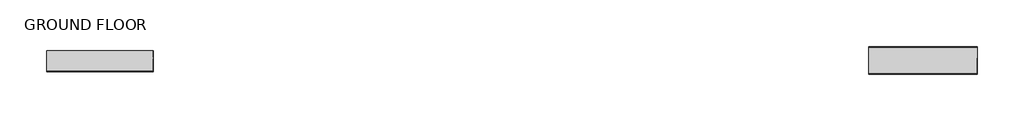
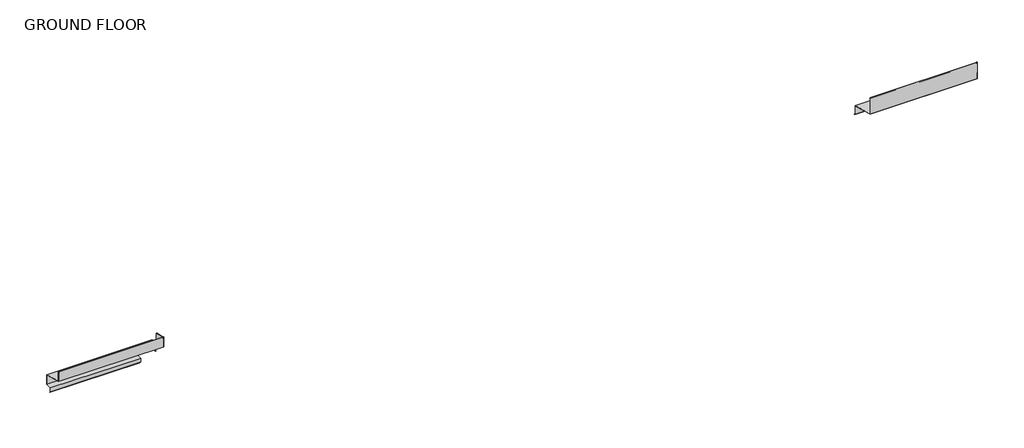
# One storey: 3 proxies.
"""IFC4 building model written with IfcOpenShell, lengths in millimetres."""

from ifc_helpers import new_model, si_unit, origin, place, context, project, spatial, transform, mapped, element, save
from components import compressible_foam_seal1_compressible_foam_seal_3d3ce578, roof_b_apron_flashing_13_roof_b_apron_flashing_3fdaa6fa, roof_b_apron_flashing_14_roof_b_apron_flashing_8da3c9e0

model = new_model("IFC4")

# Units and contexts
model_context = context("Model", 3, world=origin())
ifc_project = project(units=[si_unit("LENGTHUNIT", "METRE", prefix="MILLI")], contexts=[model_context])

# Site, building, storey
site = spatial("IfcSite", under=ifc_project)
building = spatial("IfcBuilding", under=site)
storey = spatial("IfcBuildingStorey", under=building, Name="GROUND FLOOR", Elevation=0.0)

# Proxies
placement = place(None, origin())
compressible_foam_seal1_compressible_foam_seal_shape = compressible_foam_seal1_compressible_foam_seal_3d3ce578(model_context)
element("IfcBuildingElementProxy", 1, Name="Compressible foam seal1 : Compressible foam seal", ObjectType="Compressible foam seal1 : Compressible foam seal", at=placement, inside=storey, context=model_context, shape_type="MappedRepresentation", body=[
    mapped(compressible_foam_seal1_compressible_foam_seal_shape, transform((0.0, 0.0, 0.0), x_axis=(1.0, 0.0, 0.0), y_axis=(0.0, 1.0, 0.0), z_axis=(0.0, 0.0, 1.0))),
])
roof_b_apron_flashing_13_roof_b_apron_flashing_shape = roof_b_apron_flashing_13_roof_b_apron_flashing_3fdaa6fa(model_context)
element("IfcBuildingElementProxy", 2, Name="Roof B - Apron Flashing 13 : Roof B Apron Flashing", ObjectType="Roof B - Apron Flashing 13 : Roof B Apron Flashing", at=placement, inside=storey, context=model_context, shape_type="MappedRepresentation", body=[
    mapped(roof_b_apron_flashing_13_roof_b_apron_flashing_shape, transform((0.0, 0.0, 650.0), x_axis=(1.0, 0.0, 0.0), y_axis=(0.0, 1.0, 0.0), z_axis=(0.0, 0.0, 1.0))),
])
roof_b_apron_flashing_14_roof_b_apron_flashing_shape = roof_b_apron_flashing_14_roof_b_apron_flashing_8da3c9e0(model_context)
element("IfcBuildingElementProxy", 3, Name="Roof B - Apron Flashing 14 : Roof B Apron Flashing", ObjectType="Roof B - Apron Flashing 14 : Roof B Apron Flashing", at=placement, inside=storey, context=model_context, shape_type="MappedRepresentation", body=[
    mapped(roof_b_apron_flashing_14_roof_b_apron_flashing_shape, transform((0.0, 0.0, 550.0), x_axis=(1.0, 0.0, 0.0), y_axis=(0.0, 1.0, 0.0), z_axis=(0.0, 0.0, 1.0))),
])

save(model, "model.ifc")
